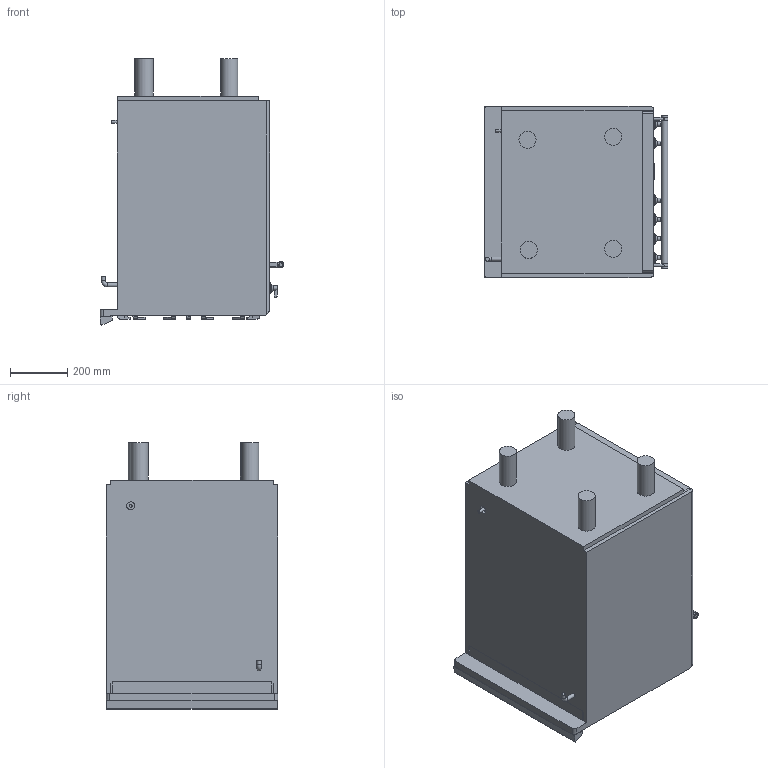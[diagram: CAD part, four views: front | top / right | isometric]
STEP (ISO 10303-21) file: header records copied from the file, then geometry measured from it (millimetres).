
FILE_DESCRIPTION(/* description */ ('Unknown'),/* implementation_level */ '2;1');
FILE_NAME(/* name */ 'GP61X9',/* time_stamp */ '2025-04-11T16:12:27+02:00',/* author */ ('Unknown'),/* organization */ ('Unknown'),/* preprocessor_version */ 'ST-DEVELOPER v16.7',/* originating_system */ 'DEX',/* authorisation */ $);
FILE_SCHEMA (('AUTOMOTIVE_DESIGN {1 0 10303 214 3 1 1}'));
Length unit declared in the file: millimetre
Products named in the file (1): GP61X9
Bounding box: 642.5 x 598 x 930.42 mm (x, y, z)
Volume: 226425196.2 mm3; surface area: 3719522.3 mm2
Topology: 2 solids, 2 shells, 830 faces, 2251 edges, 1487 vertices
Faces by surface type: plane 451, cylinder 270, bspline 48, torus 33, cone 26, sphere 2
Full cylindrical faces by diameter (mm): 4.608 x6, 8 x6, 8.5 x6, 9 x5, 10 x1, 13 x2, 13.5 x2, 14 x2, 14.995 x6, 22 x3, 28 x1, 55 x1, 60 x4, 60.611 x1, 65.5 x1, 75 x2, 85.5 x2, 85.7 x1, 131 x1, 147 x1
Entity records: 33296 total; most frequent: CARTESIAN_POINT 7200, DIRECTION 4148, ORIENTED_EDGE 4146, EDGE_CURVE 2073, AXIS2_PLACEMENT_3D 1428, VERTEX_POINT 1410, LINE 1292, VECTOR 1292
